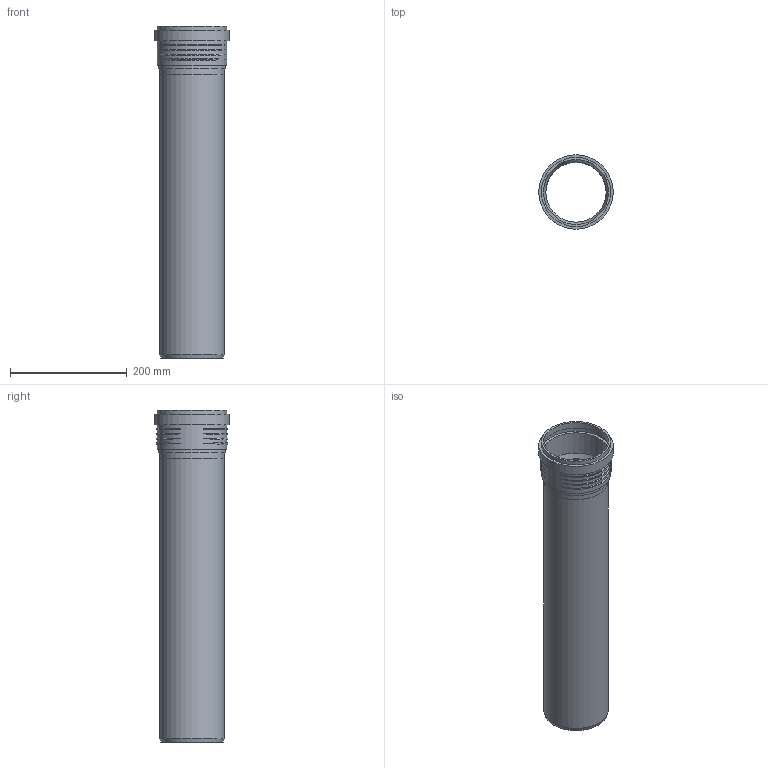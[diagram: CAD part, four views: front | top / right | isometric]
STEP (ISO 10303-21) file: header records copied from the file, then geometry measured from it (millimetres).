
FILE_DESCRIPTION(/* description */ (''),/* implementation_level */ '2;1');
FILE_NAME(/* name */ 'Z:\Geberit\Export\NewStep\390502.stp',/* time_stamp */ '2014-04-02T08:13:48+02:00',/* author */ ('ML'),/* organization */ (''),/* preprocessor_version */ 'ST-DEVELOPER v15.2',/* originating_system */ 'Autodesk Inventor 2014',/* authorisation */ '');
FILE_SCHEMA (('AUTOMOTIVE_DESIGN { 1 0 10303 214 3 1 1 }'));
Length unit declared in the file: millimetre
Products named in the file (3): 861440; 861585ohne; 390502
Bounding box: 127.4 x 127.4 x 568.1 mm (x, y, z)
Volume: 720403.7 mm3; surface area: 406464.6 mm2
Topology: 2 solids, 2 shells, 47 faces, 104 edges, 71 vertices
Faces by surface type: torus 24, cylinder 11, plane 10, cone 2
Full cylindrical faces by diameter (mm): 103 x2, 110.2 x2, 111.1 x2, 114.7 x1, 118.3 x2, 120.2 x1, 127.4 x1
Entity records: 2003 total; most frequent: CARTESIAN_POINT 962, DIRECTION 182, ORIENTED_EDGE 174, AXIS2_PLACEMENT_3D 91, EDGE_CURVE 87, EDGE_LOOP 78, VERTEX_POINT 71, STYLED_ITEM 49
